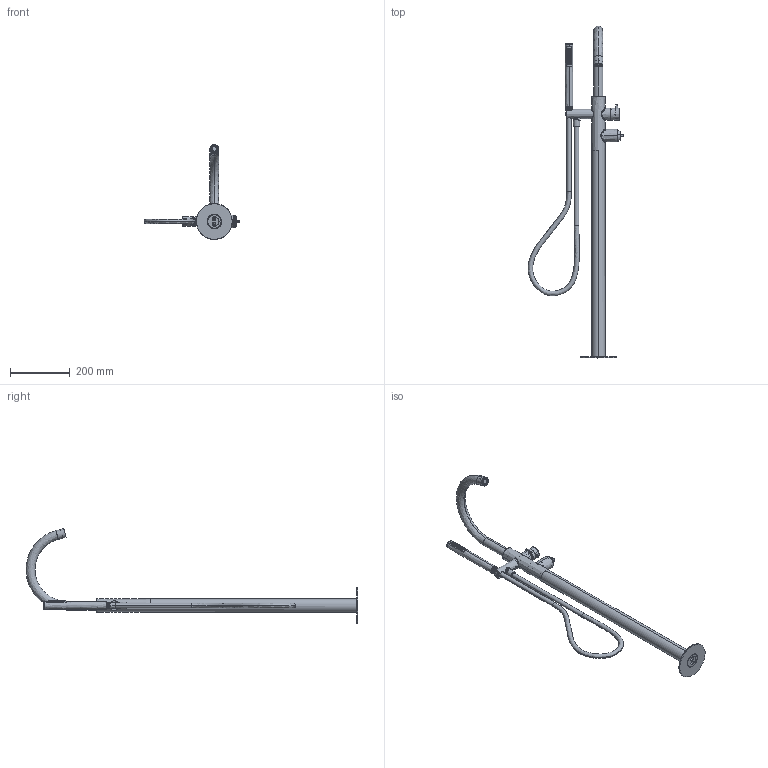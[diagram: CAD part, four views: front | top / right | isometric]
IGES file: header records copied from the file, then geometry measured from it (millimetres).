
Start section:  PTC IGES file: 12594s_sw0002.igs
Global section: file name: 12594s_sw0002.igs; native system: Creo Parametric by PTC Inc.; preprocessor: 2022014; author: volponeff; organization: Unknown; date: 20250217.111253; units: millimetre
Bounding box: 320.21 x 1109.86 x 317.34 mm (x, y, z)
Surface area: 511304.8 mm2 (no closed solid volume)
Topology: 0 solids, 0 shells, 1546 faces, 7342 edges, 7316 vertices
Faces by surface type: revolution 1082, bspline 464
